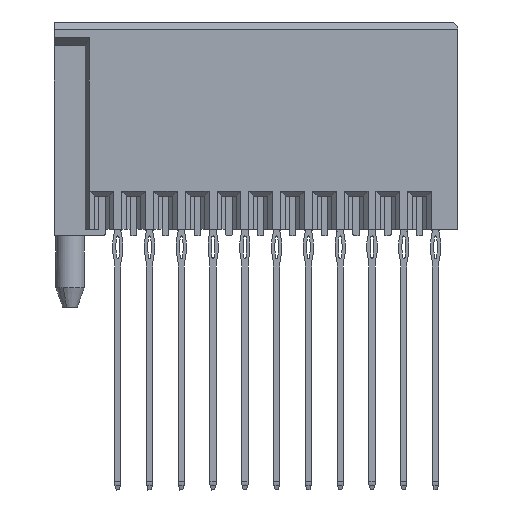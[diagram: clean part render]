
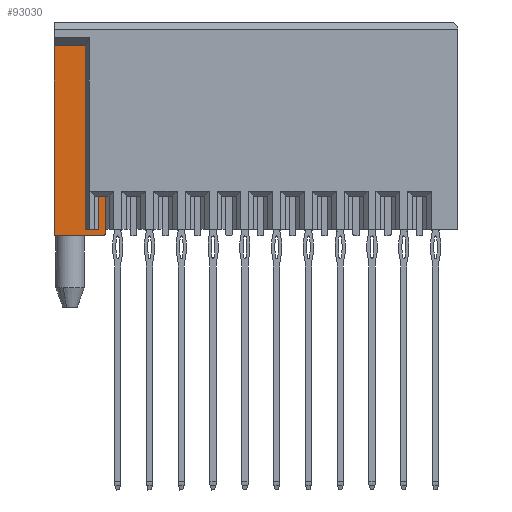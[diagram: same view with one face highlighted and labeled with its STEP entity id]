
A CAD part, front view. The second image highlights one B-rep face of the part: STEP entity #93030.
In plain terms, the highlighted planar face has unit normal (0, -1, 0).
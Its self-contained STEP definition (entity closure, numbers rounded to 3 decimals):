
#2769 = DIRECTION ( 'NONE',  ( 0., 0., -1. ) ) ;
#3731 = EDGE_CURVE ( 'NONE', #115434, #135954, #33642, .T. ) ;
#8613 = ORIENTED_EDGE ( 'NONE', *, *, #19070, .T. ) ;
#8919 = CARTESIAN_POINT ( 'NONE',  ( 22.88, -6.9, 0. ) ) ;
#15067 = DIRECTION ( 'NONE',  ( 0., 0., -1. ) ) ;
#17711 = ORIENTED_EDGE ( 'NONE', *, *, #81496, .T. ) ;
#19070 = EDGE_CURVE ( 'NONE', #83553, #23592, #145115, .T. ) ;
#19851 = ORIENTED_EDGE ( 'NONE', *, *, #3731, .F. ) ;
#20300 = CARTESIAN_POINT ( 'NONE',  ( 3.2, -6.9, 0.4 ) ) ;
#20340 = VECTOR ( 'NONE', #95767, 1000. ) ;
#21836 = ORIENTED_EDGE ( 'NONE', *, *, #149053, .F. ) ;
#23311 = VERTEX_POINT ( 'NONE', #20300 ) ;
#23592 = VERTEX_POINT ( 'NONE', #72842 ) ;
#23726 = VECTOR ( 'NONE', #95826, 1000. ) ;
#23893 = LINE ( 'NONE', #88591, #102057 ) ;
#25701 = VECTOR ( 'NONE', #63082, 1000. ) ;
#27144 = CARTESIAN_POINT ( 'NONE',  ( 3.2, -6.9, 2.5 ) ) ;
#27731 = VECTOR ( 'NONE', #15067, 1000. ) ;
#30192 = AXIS2_PLACEMENT_3D ( 'NONE', #78820, #181872, #93577 ) ;
#32852 = EDGE_CURVE ( 'NONE', #80254, #83553, #59410, .T. ) ;
#33642 = LINE ( 'NONE', #8919, #72700 ) ;
#40231 = CARTESIAN_POINT ( 'NONE',  ( 1.95, -6.9, 11.95 ) ) ;
#40761 = EDGE_CURVE ( 'NONE', #115434, #64010, #176746, .T. ) ;
#48389 = CARTESIAN_POINT ( 'NONE',  ( 0., -6.9, 0. ) ) ;
#52335 = CARTESIAN_POINT ( 'NONE',  ( 0., -6.9, 0.4 ) ) ;
#54276 = FACE_OUTER_BOUND ( 'NONE', #175837, .T. ) ;
#54433 = VECTOR ( 'NONE', #134852, 1000. ) ;
#59045 = LINE ( 'NONE', #61495, #54433 ) ;
#59352 = VERTEX_POINT ( 'NONE', #93124 ) ;
#59409 = CARTESIAN_POINT ( 'NONE',  ( 2.8, -6.9, 0. ) ) ;
#59410 = LINE ( 'NONE', #184048, #20340 ) ;
#61495 = CARTESIAN_POINT ( 'NONE',  ( 3.2, -6.9, 0.08 ) ) ;
#62623 = EDGE_CURVE ( 'NONE', #59352, #174979, #130788, .T. ) ;
#63082 = DIRECTION ( 'NONE',  ( 0., 0., -1. ) ) ;
#63937 = CARTESIAN_POINT ( 'NONE',  ( 3.12, -6.9, 0. ) ) ;
#64010 = VERTEX_POINT ( 'NONE', #129578 ) ;
#67428 = LINE ( 'NONE', #139628, #23726 ) ;
#69427 = LINE ( 'NONE', #48389, #25701 ) ;
#70990 = EDGE_CURVE ( 'NONE', #23592, #59352, #140205, .T. ) ;
#72700 = VECTOR ( 'NONE', #96951, 1000. ) ;
#72842 = CARTESIAN_POINT ( 'NONE',  ( 2.8, -6.9, 0.4 ) ) ;
#72999 = CARTESIAN_POINT ( 'NONE',  ( 0., -6.9, 0. ) ) ;
#74498 = CARTESIAN_POINT ( 'NONE',  ( 2.8, -6.9, 2.5 ) ) ;
#78820 = CARTESIAN_POINT ( 'NONE',  ( 3.12, -6.9, 0.08 ) ) ;
#80254 = VERTEX_POINT ( 'NONE', #27144 ) ;
#81496 = EDGE_CURVE ( 'NONE', #108387, #135954, #69427, .T. ) ;
#83553 = VERTEX_POINT ( 'NONE', #74498 ) ;
#87980 = DIRECTION ( 'NONE',  ( -1., 0., 0. ) ) ;
#88591 = CARTESIAN_POINT ( 'NONE',  ( 0., -6.9, 11.95 ) ) ;
#90849 = DIRECTION ( 'NONE',  ( 0., -1., 0. ) ) ;
#91177 = CARTESIAN_POINT ( 'NONE',  ( 1.95, -6.9, 11.95 ) ) ;
#91579 = VECTOR ( 'NONE', #179413, 1000. ) ;
#93030 = ADVANCED_FACE ( 'NONE', ( #54276 ), #119861, .T. ) ;
#93124 = CARTESIAN_POINT ( 'NONE',  ( 1.95, -6.9, 0.4 ) ) ;
#93577 = DIRECTION ( 'NONE',  ( 0., 0., 1. ) ) ;
#95767 = DIRECTION ( 'NONE',  ( -1., 0., 0. ) ) ;
#95826 = DIRECTION ( 'NONE',  ( 0., 0., 1. ) ) ;
#96951 = DIRECTION ( 'NONE',  ( -1., 0., 0. ) ) ;
#102057 = VECTOR ( 'NONE', #87980, 1000. ) ;
#108387 = VERTEX_POINT ( 'NONE', #131882 ) ;
#115434 = VERTEX_POINT ( 'NONE', #63937 ) ;
#119861 = PLANE ( 'NONE',  #122167 ) ;
#122167 = AXIS2_PLACEMENT_3D ( 'NONE', #179065, #90849, #2769 ) ;
#129578 = CARTESIAN_POINT ( 'NONE',  ( 3.2, -6.9, 0.08 ) ) ;
#130788 = LINE ( 'NONE', #91177, #91579 ) ;
#131882 = CARTESIAN_POINT ( 'NONE',  ( 0., -6.9, 11.95 ) ) ;
#134852 = DIRECTION ( 'NONE',  ( 0., 0., -1. ) ) ;
#135954 = VERTEX_POINT ( 'NONE', #72999 ) ;
#136536 = ORIENTED_EDGE ( 'NONE', *, *, #62623, .T. ) ;
#139628 = CARTESIAN_POINT ( 'NONE',  ( 3.2, -6.9, 11.95 ) ) ;
#140205 = LINE ( 'NONE', #52335, #156278 ) ;
#140419 = DIRECTION ( 'NONE',  ( -1., 0., 0. ) ) ;
#145115 = LINE ( 'NONE', #59409, #27731 ) ;
#149053 = EDGE_CURVE ( 'NONE', #23311, #64010, #59045, .T. ) ;
#156278 = VECTOR ( 'NONE', #140419, 1000. ) ;
#163637 = EDGE_CURVE ( 'NONE', #174979, #108387, #23893, .T. ) ;
#163657 = ORIENTED_EDGE ( 'NONE', *, *, #185319, .T. ) ;
#165037 = ORIENTED_EDGE ( 'NONE', *, *, #40761, .T. ) ;
#174979 = VERTEX_POINT ( 'NONE', #40231 ) ;
#175837 = EDGE_LOOP ( 'NONE', ( #8613, #182899, #136536, #181079, #17711, #19851, #165037, #21836, #163657, #184109 ) ) ;
#176746 = CIRCLE ( 'NONE', #30192, 0.08 ) ;
#179065 = CARTESIAN_POINT ( 'NONE',  ( 0., -6.9, 11.95 ) ) ;
#179413 = DIRECTION ( 'NONE',  ( 0., 0., 1. ) ) ;
#181079 = ORIENTED_EDGE ( 'NONE', *, *, #163637, .T. ) ;
#181872 = DIRECTION ( 'NONE',  ( 0., -1., 0. ) ) ;
#182899 = ORIENTED_EDGE ( 'NONE', *, *, #70990, .T. ) ;
#184048 = CARTESIAN_POINT ( 'NONE',  ( 0., -6.9, 2.5 ) ) ;
#184109 = ORIENTED_EDGE ( 'NONE', *, *, #32852, .T. ) ;
#185319 = EDGE_CURVE ( 'NONE', #23311, #80254, #67428, .T. ) ;
